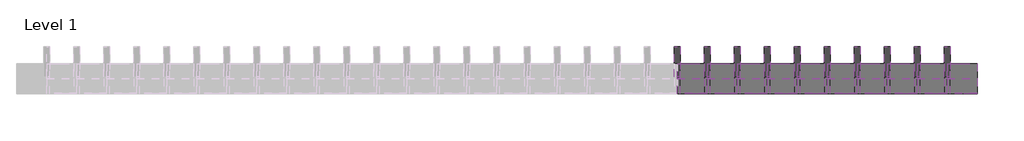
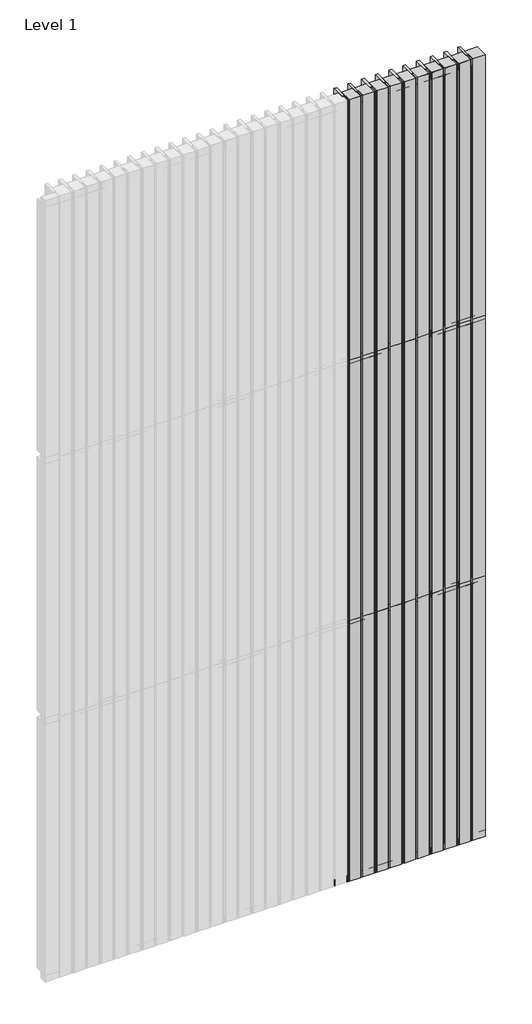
# One storey, part 6 of 6: 71 members, 60 plates.
"""IFC4 building model written with IfcOpenShell, lengths in millimetres."""

from ifc_helpers import new_model, si_unit, origin, place, context, project, spatial, transform, mapped, element, save
from components import rectangular_mullion_a3e25429, rectangular_mullion_cddbc660, rectangular_mullion_ae434dd9, rectangular_mullion_30cdfca6, empty_system_panel_empty_5411477d, empty_system_panel_empty_c50988b4, empty_system_panel_empty_7f011ee1, empty_system_panel_empty_3767e820

model = new_model("IFC4")

# Units and contexts
model_context = context("Model", 3, world=origin())
ifc_project = project(units=[si_unit("LENGTHUNIT", "METRE", prefix="MILLI")], contexts=[model_context])

# Site, building, storey
site = spatial("IfcSite", under=ifc_project)
building = spatial("IfcBuilding", under=site)
storey = spatial("IfcBuildingStorey", under=building, Name="Level 1", Elevation=0.0)

# Members
placement = place(None, origin())
rectangular_mullion_shape = rectangular_mullion_a3e25429(model_context)
element("IfcMember", 1, ObjectType="Rectangular Mullion : RSen_21_CWM_support profile 50x50 - right_gen_duco projects", at=placement, inside=storey, context=model_context, shape_type="MappedRepresentation", body=[
    mapped(rectangular_mullion_shape, transform((6000.0, 3000.0, 0.0), x_axis=(0.0, 0.0, -1.0), y_axis=(0.0, 1.0, 0.0), z_axis=(1.0, 0.0, 0.0))),
])
rectangular_mullion_2_shape = rectangular_mullion_cddbc660(model_context)
element("IfcMember", 2, ObjectType="Rectangular Mullion : RSen_21_CWM_support profile 50x50 - left_gen_duco projects", at=placement, inside=storey, context=model_context, shape_type="MappedRepresentation", body=[
    mapped(rectangular_mullion_2_shape, transform((5900.0, 3000.0, 6000.0), x_axis=(0.0, 0.0, 1.0), y_axis=(0.0, 1.0, 0.0), z_axis=(-1.0, 0.0, 0.0))),
])
element("IfcMember", 3, ObjectType="Rectangular Mullion : RSen_21_CWM_support profile 50x50 - left_gen_duco projects", at=placement, inside=storey, context=model_context, shape_type="MappedRepresentation", body=[
    mapped(rectangular_mullion_2_shape, transform((5800.0, 3000.0, 6000.0), x_axis=(0.0, 0.0, 1.0), y_axis=(0.0, 1.0, 0.0), z_axis=(-1.0, 0.0, 0.0))),
])
element("IfcMember", 4, ObjectType="Rectangular Mullion : RSen_21_CWM_support profile 50x50 - left_gen_duco projects", at=placement, inside=storey, context=model_context, shape_type="MappedRepresentation", body=[
    mapped(rectangular_mullion_2_shape, transform((5700.0, 3000.0, 6000.0), x_axis=(0.0, 0.0, 1.0), y_axis=(0.0, 1.0, 0.0), z_axis=(-1.0, 0.0, 0.0))),
])
element("IfcMember", 5, ObjectType="Rectangular Mullion : RSen_21_CWM_support profile 50x50 - left_gen_duco projects", at=placement, inside=storey, context=model_context, shape_type="MappedRepresentation", body=[
    mapped(rectangular_mullion_2_shape, transform((5600.0, 3000.0, 6000.0), x_axis=(0.0, 0.0, 1.0), y_axis=(0.0, 1.0, 0.0), z_axis=(-1.0, 0.0, 0.0))),
])
element("IfcMember", 6, ObjectType="Rectangular Mullion : RSen_21_CWM_support profile 50x50 - left_gen_duco projects", at=placement, inside=storey, context=model_context, shape_type="MappedRepresentation", body=[
    mapped(rectangular_mullion_2_shape, transform((5500.0, 3000.0, 6000.0), x_axis=(0.0, 0.0, 1.0), y_axis=(0.0, 1.0, 0.0), z_axis=(-1.0, 0.0, 0.0))),
])
element("IfcMember", 7, ObjectType="Rectangular Mullion : RSen_21_CWM_support profile 50x50 - left_gen_duco projects", at=placement, inside=storey, context=model_context, shape_type="MappedRepresentation", body=[
    mapped(rectangular_mullion_2_shape, transform((5400.0, 3000.0, 6000.0), x_axis=(0.0, 0.0, 1.0), y_axis=(0.0, 1.0, 0.0), z_axis=(-1.0, 0.0, 0.0))),
])
element("IfcMember", 8, ObjectType="Rectangular Mullion : RSen_21_CWM_support profile 50x50 - left_gen_duco projects", at=placement, inside=storey, context=model_context, shape_type="MappedRepresentation", body=[
    mapped(rectangular_mullion_2_shape, transform((5300.0, 3000.0, 6000.0), x_axis=(0.0, 0.0, 1.0), y_axis=(0.0, 1.0, 0.0), z_axis=(-1.0, 0.0, 0.0))),
])
element("IfcMember", 9, ObjectType="Rectangular Mullion : RSen_21_CWM_support profile 50x50 - left_gen_duco projects", at=placement, inside=storey, context=model_context, shape_type="MappedRepresentation", body=[
    mapped(rectangular_mullion_2_shape, transform((5200.0, 3000.0, 6000.0), x_axis=(0.0, 0.0, 1.0), y_axis=(0.0, 1.0, 0.0), z_axis=(-1.0, 0.0, 0.0))),
])
element("IfcMember", 10, ObjectType="Rectangular Mullion : RSen_21_CWM_support profile 50x50 - left_gen_duco projects", at=placement, inside=storey, context=model_context, shape_type="MappedRepresentation", body=[
    mapped(rectangular_mullion_2_shape, transform((5100.0, 3000.0, 6000.0), x_axis=(0.0, 0.0, 1.0), y_axis=(0.0, 1.0, 0.0), z_axis=(-1.0, 0.0, 0.0))),
])
element("IfcMember", 11, ObjectType="Rectangular Mullion : RSen_21_CWM_support profile 50x50 - left_gen_duco projects", at=placement, inside=storey, context=model_context, shape_type="MappedRepresentation", body=[
    mapped(rectangular_mullion_2_shape, transform((5000.0, 3000.0, 6000.0), x_axis=(0.0, 0.0, 1.0), y_axis=(0.0, 1.0, 0.0), z_axis=(-1.0, 0.0, 0.0))),
])
element("IfcMember", 12, ObjectType="Rectangular Mullion : RSen_21_CWM_support profile 50x50 - right_gen_duco projects", at=placement, inside=storey, context=model_context, shape_type="MappedRepresentation", body=[
    mapped(rectangular_mullion_shape, transform((5900.0, 3000.0, 0.0), x_axis=(0.0, 0.0, -1.0), y_axis=(0.0, 1.0, 0.0), z_axis=(1.0, 0.0, 0.0))),
])
element("IfcMember", 13, ObjectType="Rectangular Mullion : RSen_21_CWM_support profile 50x50 - right_gen_duco projects", at=placement, inside=storey, context=model_context, shape_type="MappedRepresentation", body=[
    mapped(rectangular_mullion_shape, transform((5800.0, 3000.0, 0.0), x_axis=(0.0, 0.0, -1.0), y_axis=(0.0, 1.0, 0.0), z_axis=(1.0, 0.0, 0.0))),
])
element("IfcMember", 14, ObjectType="Rectangular Mullion : RSen_21_CWM_support profile 50x50 - right_gen_duco projects", at=placement, inside=storey, context=model_context, shape_type="MappedRepresentation", body=[
    mapped(rectangular_mullion_shape, transform((5700.0, 3000.0, 0.0), x_axis=(0.0, 0.0, -1.0), y_axis=(0.0, 1.0, 0.0), z_axis=(1.0, 0.0, 0.0))),
])
element("IfcMember", 15, ObjectType="Rectangular Mullion : RSen_21_CWM_support profile 50x50 - right_gen_duco projects", at=placement, inside=storey, context=model_context, shape_type="MappedRepresentation", body=[
    mapped(rectangular_mullion_shape, transform((5600.0, 3000.0, 0.0), x_axis=(0.0, 0.0, -1.0), y_axis=(0.0, 1.0, 0.0), z_axis=(1.0, 0.0, 0.0))),
])
element("IfcMember", 16, ObjectType="Rectangular Mullion : RSen_21_CWM_support profile 50x50 - right_gen_duco projects", at=placement, inside=storey, context=model_context, shape_type="MappedRepresentation", body=[
    mapped(rectangular_mullion_shape, transform((5500.0, 3000.0, 0.0), x_axis=(0.0, 0.0, -1.0), y_axis=(0.0, 1.0, 0.0), z_axis=(1.0, 0.0, 0.0))),
])
element("IfcMember", 17, ObjectType="Rectangular Mullion : RSen_21_CWM_support profile 50x50 - right_gen_duco projects", at=placement, inside=storey, context=model_context, shape_type="MappedRepresentation", body=[
    mapped(rectangular_mullion_shape, transform((5400.0, 3000.0, 0.0), x_axis=(0.0, 0.0, -1.0), y_axis=(0.0, 1.0, 0.0), z_axis=(1.0, 0.0, 0.0))),
])
element("IfcMember", 18, ObjectType="Rectangular Mullion : RSen_21_CWM_support profile 50x50 - right_gen_duco projects", at=placement, inside=storey, context=model_context, shape_type="MappedRepresentation", body=[
    mapped(rectangular_mullion_shape, transform((5300.0, 3000.0, 0.0), x_axis=(0.0, 0.0, -1.0), y_axis=(0.0, 1.0, 0.0), z_axis=(1.0, 0.0, 0.0))),
])
element("IfcMember", 19, ObjectType="Rectangular Mullion : RSen_21_CWM_support profile 50x50 - right_gen_duco projects", at=placement, inside=storey, context=model_context, shape_type="MappedRepresentation", body=[
    mapped(rectangular_mullion_shape, transform((5200.0, 3000.0, 0.0), x_axis=(0.0, 0.0, -1.0), y_axis=(0.0, 1.0, 0.0), z_axis=(1.0, 0.0, 0.0))),
])
element("IfcMember", 20, ObjectType="Rectangular Mullion : RSen_21_CWM_support profile 50x50 - right_gen_duco projects", at=placement, inside=storey, context=model_context, shape_type="MappedRepresentation", body=[
    mapped(rectangular_mullion_shape, transform((5100.0, 3000.0, 0.0), x_axis=(0.0, 0.0, -1.0), y_axis=(0.0, 1.0, 0.0), z_axis=(1.0, 0.0, 0.0))),
])
element("IfcMember", 21, ObjectType="Rectangular Mullion : RSen_21_CWM_support profile 50x50 - right_gen_duco projects", at=placement, inside=storey, context=model_context, shape_type="MappedRepresentation", body=[
    mapped(rectangular_mullion_shape, transform((5000.0, 3000.0, 0.0), x_axis=(0.0, 0.0, -1.0), y_axis=(0.0, 1.0, 0.0), z_axis=(1.0, 0.0, 0.0))),
])
rectangular_mullion_3_shape = rectangular_mullion_ae434dd9(model_context)
element("IfcMember", 22, ObjectType="Rectangular Mullion : RSen_21_CWM_support profile 50x50_gen_duco projects", at=placement, inside=storey, context=model_context, shape_type="MappedRepresentation", body=[
    mapped(rectangular_mullion_3_shape, transform((5900.0, 3000.0, 2000.0), x_axis=(0.0, 0.0, 1.0), y_axis=(0.0, 1.0, 0.0), z_axis=(-1.0, 0.0, 0.0))),
])
element("IfcMember", 23, ObjectType="Rectangular Mullion : RSen_21_CWM_support profile 50x50_gen_duco projects", at=placement, inside=storey, context=model_context, shape_type="MappedRepresentation", body=[
    mapped(rectangular_mullion_3_shape, transform((5900.0, 3000.0, 4000.0), x_axis=(0.0, 0.0, 1.0), y_axis=(0.0, 1.0, 0.0), z_axis=(-1.0, 0.0, 0.0))),
])
element("IfcMember", 24, ObjectType="Rectangular Mullion : RSen_21_CWM_support profile 50x50_gen_duco projects", at=placement, inside=storey, context=model_context, shape_type="MappedRepresentation", body=[
    mapped(rectangular_mullion_3_shape, transform((5800.0, 3000.0, 2000.0), x_axis=(0.0, 0.0, 1.0), y_axis=(0.0, 1.0, 0.0), z_axis=(-1.0, 0.0, 0.0))),
])
element("IfcMember", 25, ObjectType="Rectangular Mullion : RSen_21_CWM_support profile 50x50_gen_duco projects", at=placement, inside=storey, context=model_context, shape_type="MappedRepresentation", body=[
    mapped(rectangular_mullion_3_shape, transform((5700.0, 3000.0, 2000.0), x_axis=(0.0, 0.0, 1.0), y_axis=(0.0, 1.0, 0.0), z_axis=(-1.0, 0.0, 0.0))),
])
element("IfcMember", 26, ObjectType="Rectangular Mullion : RSen_21_CWM_support profile 50x50_gen_duco projects", at=placement, inside=storey, context=model_context, shape_type="MappedRepresentation", body=[
    mapped(rectangular_mullion_3_shape, transform((5600.0, 3000.0, 2000.0), x_axis=(0.0, 0.0, 1.0), y_axis=(0.0, 1.0, 0.0), z_axis=(-1.0, 0.0, 0.0))),
])
element("IfcMember", 27, ObjectType="Rectangular Mullion : RSen_21_CWM_support profile 50x50_gen_duco projects", at=placement, inside=storey, context=model_context, shape_type="MappedRepresentation", body=[
    mapped(rectangular_mullion_3_shape, transform((5500.0, 3000.0, 2000.0), x_axis=(0.0, 0.0, 1.0), y_axis=(0.0, 1.0, 0.0), z_axis=(-1.0, 0.0, 0.0))),
])
element("IfcMember", 28, ObjectType="Rectangular Mullion : RSen_21_CWM_support profile 50x50_gen_duco projects", at=placement, inside=storey, context=model_context, shape_type="MappedRepresentation", body=[
    mapped(rectangular_mullion_3_shape, transform((5400.0, 3000.0, 2000.0), x_axis=(0.0, 0.0, 1.0), y_axis=(0.0, 1.0, 0.0), z_axis=(-1.0, 0.0, 0.0))),
])
element("IfcMember", 29, ObjectType="Rectangular Mullion : RSen_21_CWM_support profile 50x50_gen_duco projects", at=placement, inside=storey, context=model_context, shape_type="MappedRepresentation", body=[
    mapped(rectangular_mullion_3_shape, transform((5300.0, 3000.0, 2000.0), x_axis=(0.0, 0.0, 1.0), y_axis=(0.0, 1.0, 0.0), z_axis=(-1.0, 0.0, 0.0))),
])
element("IfcMember", 30, ObjectType="Rectangular Mullion : RSen_21_CWM_support profile 50x50_gen_duco projects", at=placement, inside=storey, context=model_context, shape_type="MappedRepresentation", body=[
    mapped(rectangular_mullion_3_shape, transform((5200.0, 3000.0, 2000.0), x_axis=(0.0, 0.0, 1.0), y_axis=(0.0, 1.0, 0.0), z_axis=(-1.0, 0.0, 0.0))),
])
element("IfcMember", 31, ObjectType="Rectangular Mullion : RSen_21_CWM_support profile 50x50_gen_duco projects", at=placement, inside=storey, context=model_context, shape_type="MappedRepresentation", body=[
    mapped(rectangular_mullion_3_shape, transform((5100.0, 3000.0, 2000.0), x_axis=(0.0, 0.0, 1.0), y_axis=(0.0, 1.0, 0.0), z_axis=(-1.0, 0.0, 0.0))),
])
element("IfcMember", 32, ObjectType="Rectangular Mullion : RSen_21_CWM_support profile 50x50_gen_duco projects", at=placement, inside=storey, context=model_context, shape_type="MappedRepresentation", body=[
    mapped(rectangular_mullion_3_shape, transform((5000.0, 3000.0, 2000.0), x_axis=(0.0, 0.0, 1.0), y_axis=(0.0, 1.0, 0.0), z_axis=(-1.0, 0.0, 0.0))),
])
element("IfcMember", 33, ObjectType="Rectangular Mullion : RSen_21_CWM_support profile 50x50_gen_duco projects", at=placement, inside=storey, context=model_context, shape_type="MappedRepresentation", body=[
    mapped(rectangular_mullion_3_shape, transform((5800.0, 3000.0, 4000.0), x_axis=(0.0, 0.0, 1.0), y_axis=(0.0, 1.0, 0.0), z_axis=(-1.0, 0.0, 0.0))),
])
element("IfcMember", 34, ObjectType="Rectangular Mullion : RSen_21_CWM_support profile 50x50_gen_duco projects", at=placement, inside=storey, context=model_context, shape_type="MappedRepresentation", body=[
    mapped(rectangular_mullion_3_shape, transform((5700.0, 3000.0, 4000.0), x_axis=(0.0, 0.0, 1.0), y_axis=(0.0, 1.0, 0.0), z_axis=(-1.0, 0.0, 0.0))),
])
element("IfcMember", 35, ObjectType="Rectangular Mullion : RSen_21_CWM_support profile 50x50_gen_duco projects", at=placement, inside=storey, context=model_context, shape_type="MappedRepresentation", body=[
    mapped(rectangular_mullion_3_shape, transform((5600.0, 3000.0, 4000.0), x_axis=(0.0, 0.0, 1.0), y_axis=(0.0, 1.0, 0.0), z_axis=(-1.0, 0.0, 0.0))),
])
element("IfcMember", 36, ObjectType="Rectangular Mullion : RSen_21_CWM_support profile 50x50_gen_duco projects", at=placement, inside=storey, context=model_context, shape_type="MappedRepresentation", body=[
    mapped(rectangular_mullion_3_shape, transform((5500.0, 3000.0, 4000.0), x_axis=(0.0, 0.0, 1.0), y_axis=(0.0, 1.0, 0.0), z_axis=(-1.0, 0.0, 0.0))),
])
element("IfcMember", 37, ObjectType="Rectangular Mullion : RSen_21_CWM_support profile 50x50_gen_duco projects", at=placement, inside=storey, context=model_context, shape_type="MappedRepresentation", body=[
    mapped(rectangular_mullion_3_shape, transform((5400.0, 3000.0, 4000.0), x_axis=(0.0, 0.0, 1.0), y_axis=(0.0, 1.0, 0.0), z_axis=(-1.0, 0.0, 0.0))),
])
element("IfcMember", 38, ObjectType="Rectangular Mullion : RSen_21_CWM_support profile 50x50_gen_duco projects", at=placement, inside=storey, context=model_context, shape_type="MappedRepresentation", body=[
    mapped(rectangular_mullion_3_shape, transform((5300.0, 3000.0, 4000.0), x_axis=(0.0, 0.0, 1.0), y_axis=(0.0, 1.0, 0.0), z_axis=(-1.0, 0.0, 0.0))),
])
element("IfcMember", 39, ObjectType="Rectangular Mullion : RSen_21_CWM_support profile 50x50_gen_duco projects", at=placement, inside=storey, context=model_context, shape_type="MappedRepresentation", body=[
    mapped(rectangular_mullion_3_shape, transform((5200.0, 3000.0, 4000.0), x_axis=(0.0, 0.0, 1.0), y_axis=(0.0, 1.0, 0.0), z_axis=(-1.0, 0.0, 0.0))),
])
element("IfcMember", 40, ObjectType="Rectangular Mullion : RSen_21_CWM_support profile 50x50_gen_duco projects", at=placement, inside=storey, context=model_context, shape_type="MappedRepresentation", body=[
    mapped(rectangular_mullion_3_shape, transform((5100.0, 3000.0, 4000.0), x_axis=(0.0, 0.0, 1.0), y_axis=(0.0, 1.0, 0.0), z_axis=(-1.0, 0.0, 0.0))),
])
element("IfcMember", 41, ObjectType="Rectangular Mullion : RSen_21_CWM_support profile 50x50_gen_duco projects", at=placement, inside=storey, context=model_context, shape_type="MappedRepresentation", body=[
    mapped(rectangular_mullion_3_shape, transform((5000.0, 3000.0, 4000.0), x_axis=(0.0, 0.0, 1.0), y_axis=(0.0, 1.0, 0.0), z_axis=(-1.0, 0.0, 0.0))),
])
rectangular_mullion_4_shape = rectangular_mullion_30cdfca6(model_context)
element("IfcMember", 42, ObjectType="Rectangular Mullion : RSen_21_CWM_blade - cubic 100 - 0°_gen_duco projects", at=placement, inside=storey, context=model_context, shape_type="MappedRepresentation", body=[
    mapped(rectangular_mullion_4_shape, transform((5900.0, 3000.0, 0.0), x_axis=(-1.0, 0.0, 0.0), y_axis=(0.0, 1.0, 0.0), z_axis=(0.0, 0.0, -1.0))),
])
element("IfcMember", 43, ObjectType="Rectangular Mullion : RSen_21_CWM_blade - cubic 100 - 0°_gen_duco projects", at=placement, inside=storey, context=model_context, shape_type="MappedRepresentation", body=[
    mapped(rectangular_mullion_4_shape, transform((5800.0, 3000.0, 0.0), x_axis=(-1.0, 0.0, 0.0), y_axis=(0.0, 1.0, 0.0), z_axis=(0.0, 0.0, -1.0))),
])
element("IfcMember", 44, ObjectType="Rectangular Mullion : RSen_21_CWM_blade - cubic 100 - 0°_gen_duco projects", at=placement, inside=storey, context=model_context, shape_type="MappedRepresentation", body=[
    mapped(rectangular_mullion_4_shape, transform((5700.0, 3000.0, 0.0), x_axis=(-1.0, 0.0, 0.0), y_axis=(0.0, 1.0, 0.0), z_axis=(0.0, 0.0, -1.0))),
])
element("IfcMember", 45, ObjectType="Rectangular Mullion : RSen_21_CWM_blade - cubic 100 - 0°_gen_duco projects", at=placement, inside=storey, context=model_context, shape_type="MappedRepresentation", body=[
    mapped(rectangular_mullion_4_shape, transform((5600.0, 3000.0, 0.0), x_axis=(-1.0, 0.0, 0.0), y_axis=(0.0, 1.0, 0.0), z_axis=(0.0, 0.0, -1.0))),
])
element("IfcMember", 46, ObjectType="Rectangular Mullion : RSen_21_CWM_blade - cubic 100 - 0°_gen_duco projects", at=placement, inside=storey, context=model_context, shape_type="MappedRepresentation", body=[
    mapped(rectangular_mullion_4_shape, transform((5500.0, 3000.0, 0.0), x_axis=(-1.0, 0.0, 0.0), y_axis=(0.0, 1.0, 0.0), z_axis=(0.0, 0.0, -1.0))),
])
element("IfcMember", 47, ObjectType="Rectangular Mullion : RSen_21_CWM_blade - cubic 100 - 0°_gen_duco projects", at=placement, inside=storey, context=model_context, shape_type="MappedRepresentation", body=[
    mapped(rectangular_mullion_4_shape, transform((5400.0, 3000.0, 0.0), x_axis=(-1.0, 0.0, 0.0), y_axis=(0.0, 1.0, 0.0), z_axis=(0.0, 0.0, -1.0))),
])
element("IfcMember", 48, ObjectType="Rectangular Mullion : RSen_21_CWM_blade - cubic 100 - 0°_gen_duco projects", at=placement, inside=storey, context=model_context, shape_type="MappedRepresentation", body=[
    mapped(rectangular_mullion_4_shape, transform((5300.0, 3000.0, 0.0), x_axis=(-1.0, 0.0, 0.0), y_axis=(0.0, 1.0, 0.0), z_axis=(0.0, 0.0, -1.0))),
])
element("IfcMember", 49, ObjectType="Rectangular Mullion : RSen_21_CWM_blade - cubic 100 - 0°_gen_duco projects", at=placement, inside=storey, context=model_context, shape_type="MappedRepresentation", body=[
    mapped(rectangular_mullion_4_shape, transform((5200.0, 3000.0, 0.0), x_axis=(-1.0, 0.0, 0.0), y_axis=(0.0, 1.0, 0.0), z_axis=(0.0, 0.0, -1.0))),
])
element("IfcMember", 50, ObjectType="Rectangular Mullion : RSen_21_CWM_blade - cubic 100 - 0°_gen_duco projects", at=placement, inside=storey, context=model_context, shape_type="MappedRepresentation", body=[
    mapped(rectangular_mullion_4_shape, transform((5100.0, 3000.0, 0.0), x_axis=(-1.0, 0.0, 0.0), y_axis=(0.0, 1.0, 0.0), z_axis=(0.0, 0.0, -1.0))),
])
element("IfcMember", 51, ObjectType="Rectangular Mullion : RSen_21_CWM_blade - cubic 100 - 0°_gen_duco projects", at=placement, inside=storey, context=model_context, shape_type="MappedRepresentation", body=[
    mapped(rectangular_mullion_4_shape, transform((5000.0, 3000.0, 0.0), x_axis=(-1.0, 0.0, 0.0), y_axis=(0.0, 1.0, 0.0), z_axis=(0.0, 0.0, -1.0))),
])
element("IfcMember", 52, ObjectType="Rectangular Mullion : RSen_21_CWM_blade - cubic 100 - 0°_gen_duco projects", at=placement, inside=storey, context=model_context, shape_type="MappedRepresentation", body=[
    mapped(rectangular_mullion_4_shape, transform((5900.0, 3000.0, 2000.0), x_axis=(-1.0, 0.0, 0.0), y_axis=(0.0, 1.0, 0.0), z_axis=(0.0, 0.0, -1.0))),
])
element("IfcMember", 53, ObjectType="Rectangular Mullion : RSen_21_CWM_blade - cubic 100 - 0°_gen_duco projects", at=placement, inside=storey, context=model_context, shape_type="MappedRepresentation", body=[
    mapped(rectangular_mullion_4_shape, transform((5800.0, 3000.0, 2000.0), x_axis=(-1.0, 0.0, 0.0), y_axis=(0.0, 1.0, 0.0), z_axis=(0.0, 0.0, -1.0))),
])
element("IfcMember", 54, ObjectType="Rectangular Mullion : RSen_21_CWM_blade - cubic 100 - 0°_gen_duco projects", at=placement, inside=storey, context=model_context, shape_type="MappedRepresentation", body=[
    mapped(rectangular_mullion_4_shape, transform((5700.0, 3000.0, 2000.0), x_axis=(-1.0, 0.0, 0.0), y_axis=(0.0, 1.0, 0.0), z_axis=(0.0, 0.0, -1.0))),
])
element("IfcMember", 55, ObjectType="Rectangular Mullion : RSen_21_CWM_blade - cubic 100 - 0°_gen_duco projects", at=placement, inside=storey, context=model_context, shape_type="MappedRepresentation", body=[
    mapped(rectangular_mullion_4_shape, transform((5600.0, 3000.0, 2000.0), x_axis=(-1.0, 0.0, 0.0), y_axis=(0.0, 1.0, 0.0), z_axis=(0.0, 0.0, -1.0))),
])
element("IfcMember", 56, ObjectType="Rectangular Mullion : RSen_21_CWM_blade - cubic 100 - 0°_gen_duco projects", at=placement, inside=storey, context=model_context, shape_type="MappedRepresentation", body=[
    mapped(rectangular_mullion_4_shape, transform((5500.0, 3000.0, 2000.0), x_axis=(-1.0, 0.0, 0.0), y_axis=(0.0, 1.0, 0.0), z_axis=(0.0, 0.0, -1.0))),
])
element("IfcMember", 57, ObjectType="Rectangular Mullion : RSen_21_CWM_blade - cubic 100 - 0°_gen_duco projects", at=placement, inside=storey, context=model_context, shape_type="MappedRepresentation", body=[
    mapped(rectangular_mullion_4_shape, transform((5400.0, 3000.0, 2000.0), x_axis=(-1.0, 0.0, 0.0), y_axis=(0.0, 1.0, 0.0), z_axis=(0.0, 0.0, -1.0))),
])
element("IfcMember", 58, ObjectType="Rectangular Mullion : RSen_21_CWM_blade - cubic 100 - 0°_gen_duco projects", at=placement, inside=storey, context=model_context, shape_type="MappedRepresentation", body=[
    mapped(rectangular_mullion_4_shape, transform((5300.0, 3000.0, 2000.0), x_axis=(-1.0, 0.0, 0.0), y_axis=(0.0, 1.0, 0.0), z_axis=(0.0, 0.0, -1.0))),
])
element("IfcMember", 59, ObjectType="Rectangular Mullion : RSen_21_CWM_blade - cubic 100 - 0°_gen_duco projects", at=placement, inside=storey, context=model_context, shape_type="MappedRepresentation", body=[
    mapped(rectangular_mullion_4_shape, transform((5200.0, 3000.0, 2000.0), x_axis=(-1.0, 0.0, 0.0), y_axis=(0.0, 1.0, 0.0), z_axis=(0.0, 0.0, -1.0))),
])
element("IfcMember", 60, ObjectType="Rectangular Mullion : RSen_21_CWM_blade - cubic 100 - 0°_gen_duco projects", at=placement, inside=storey, context=model_context, shape_type="MappedRepresentation", body=[
    mapped(rectangular_mullion_4_shape, transform((5100.0, 3000.0, 2000.0), x_axis=(-1.0, 0.0, 0.0), y_axis=(0.0, 1.0, 0.0), z_axis=(0.0, 0.0, -1.0))),
])
element("IfcMember", 61, ObjectType="Rectangular Mullion : RSen_21_CWM_blade - cubic 100 - 0°_gen_duco projects", at=placement, inside=storey, context=model_context, shape_type="MappedRepresentation", body=[
    mapped(rectangular_mullion_4_shape, transform((5000.0, 3000.0, 2000.0), x_axis=(-1.0, 0.0, 0.0), y_axis=(0.0, 1.0, 0.0), z_axis=(0.0, 0.0, -1.0))),
])
element("IfcMember", 62, ObjectType="Rectangular Mullion : RSen_21_CWM_blade - cubic 100 - 0°_gen_duco projects", at=placement, inside=storey, context=model_context, shape_type="MappedRepresentation", body=[
    mapped(rectangular_mullion_4_shape, transform((5900.0, 3000.0, 4000.0), x_axis=(-1.0, 0.0, 0.0), y_axis=(0.0, 1.0, 0.0), z_axis=(0.0, 0.0, -1.0))),
])
element("IfcMember", 63, ObjectType="Rectangular Mullion : RSen_21_CWM_blade - cubic 100 - 0°_gen_duco projects", at=placement, inside=storey, context=model_context, shape_type="MappedRepresentation", body=[
    mapped(rectangular_mullion_4_shape, transform((5800.0, 3000.0, 4000.0), x_axis=(-1.0, 0.0, 0.0), y_axis=(0.0, 1.0, 0.0), z_axis=(0.0, 0.0, -1.0))),
])
element("IfcMember", 64, ObjectType="Rectangular Mullion : RSen_21_CWM_blade - cubic 100 - 0°_gen_duco projects", at=placement, inside=storey, context=model_context, shape_type="MappedRepresentation", body=[
    mapped(rectangular_mullion_4_shape, transform((5700.0, 3000.0, 4000.0), x_axis=(-1.0, 0.0, 0.0), y_axis=(0.0, 1.0, 0.0), z_axis=(0.0, 0.0, -1.0))),
])
element("IfcMember", 65, ObjectType="Rectangular Mullion : RSen_21_CWM_blade - cubic 100 - 0°_gen_duco projects", at=placement, inside=storey, context=model_context, shape_type="MappedRepresentation", body=[
    mapped(rectangular_mullion_4_shape, transform((5600.0, 3000.0, 4000.0), x_axis=(-1.0, 0.0, 0.0), y_axis=(0.0, 1.0, 0.0), z_axis=(0.0, 0.0, -1.0))),
])
element("IfcMember", 66, ObjectType="Rectangular Mullion : RSen_21_CWM_blade - cubic 100 - 0°_gen_duco projects", at=placement, inside=storey, context=model_context, shape_type="MappedRepresentation", body=[
    mapped(rectangular_mullion_4_shape, transform((5500.0, 3000.0, 4000.0), x_axis=(-1.0, 0.0, 0.0), y_axis=(0.0, 1.0, 0.0), z_axis=(0.0, 0.0, -1.0))),
])
element("IfcMember", 67, ObjectType="Rectangular Mullion : RSen_21_CWM_blade - cubic 100 - 0°_gen_duco projects", at=placement, inside=storey, context=model_context, shape_type="MappedRepresentation", body=[
    mapped(rectangular_mullion_4_shape, transform((5400.0, 3000.0, 4000.0), x_axis=(-1.0, 0.0, 0.0), y_axis=(0.0, 1.0, 0.0), z_axis=(0.0, 0.0, -1.0))),
])
element("IfcMember", 68, ObjectType="Rectangular Mullion : RSen_21_CWM_blade - cubic 100 - 0°_gen_duco projects", at=placement, inside=storey, context=model_context, shape_type="MappedRepresentation", body=[
    mapped(rectangular_mullion_4_shape, transform((5300.0, 3000.0, 4000.0), x_axis=(-1.0, 0.0, 0.0), y_axis=(0.0, 1.0, 0.0), z_axis=(0.0, 0.0, -1.0))),
])
element("IfcMember", 69, ObjectType="Rectangular Mullion : RSen_21_CWM_blade - cubic 100 - 0°_gen_duco projects", at=placement, inside=storey, context=model_context, shape_type="MappedRepresentation", body=[
    mapped(rectangular_mullion_4_shape, transform((5200.0, 3000.0, 4000.0), x_axis=(-1.0, 0.0, 0.0), y_axis=(0.0, 1.0, 0.0), z_axis=(0.0, 0.0, -1.0))),
])
element("IfcMember", 70, ObjectType="Rectangular Mullion : RSen_21_CWM_blade - cubic 100 - 0°_gen_duco projects", at=placement, inside=storey, context=model_context, shape_type="MappedRepresentation", body=[
    mapped(rectangular_mullion_4_shape, transform((5100.0, 3000.0, 4000.0), x_axis=(-1.0, 0.0, 0.0), y_axis=(0.0, 1.0, 0.0), z_axis=(0.0, 0.0, -1.0))),
])
element("IfcMember", 71, ObjectType="Rectangular Mullion : RSen_21_CWM_blade - cubic 100 - 0°_gen_duco projects", at=placement, inside=storey, context=model_context, shape_type="MappedRepresentation", body=[
    mapped(rectangular_mullion_4_shape, transform((5000.0, 3000.0, 4000.0), x_axis=(-1.0, 0.0, 0.0), y_axis=(0.0, 1.0, 0.0), z_axis=(0.0, 0.0, -1.0))),
])

# Plates
empty_system_panel_empty_shape = empty_system_panel_empty_5411477d(model_context)
element("IfcPlate", 72, ObjectType="Empty System Panel : Empty", at=placement, inside=storey, context=model_context, shape_type="MappedRepresentation", body=[
    mapped(empty_system_panel_empty_shape, transform((5950.0, 3000.0, 50.0), x_axis=(-1.0, 0.0, 0.0), y_axis=(0.0, -1.0, 0.0), z_axis=(0.0, 0.0, 1.0))),
])
element("IfcPlate", 73, ObjectType="Empty System Panel : Empty", at=placement, inside=storey, context=model_context, shape_type="MappedRepresentation", body=[
    mapped(empty_system_panel_empty_shape, transform((5850.0, 3000.0, 50.0), x_axis=(-1.0, 0.0, 0.0), y_axis=(0.0, -1.0, 0.0), z_axis=(0.0, 0.0, 1.0))),
])
element("IfcPlate", 74, ObjectType="Empty System Panel : Empty", at=placement, inside=storey, context=model_context, shape_type="MappedRepresentation", body=[
    mapped(empty_system_panel_empty_shape, transform((5750.0, 3000.0, 50.0), x_axis=(-1.0, 0.0, 0.0), y_axis=(0.0, -1.0, 0.0), z_axis=(0.0, 0.0, 1.0))),
])
element("IfcPlate", 75, ObjectType="Empty System Panel : Empty", at=placement, inside=storey, context=model_context, shape_type="MappedRepresentation", body=[
    mapped(empty_system_panel_empty_shape, transform((5650.0, 3000.0, 50.0), x_axis=(-1.0, 0.0, 0.0), y_axis=(0.0, -1.0, 0.0), z_axis=(0.0, 0.0, 1.0))),
])
element("IfcPlate", 76, ObjectType="Empty System Panel : Empty", at=placement, inside=storey, context=model_context, shape_type="MappedRepresentation", body=[
    mapped(empty_system_panel_empty_shape, transform((5550.0, 3000.0, 50.0), x_axis=(-1.0, 0.0, 0.0), y_axis=(0.0, -1.0, 0.0), z_axis=(0.0, 0.0, 1.0))),
])
element("IfcPlate", 77, ObjectType="Empty System Panel : Empty", at=placement, inside=storey, context=model_context, shape_type="MappedRepresentation", body=[
    mapped(empty_system_panel_empty_shape, transform((5450.0, 3000.0, 50.0), x_axis=(-1.0, 0.0, 0.0), y_axis=(0.0, -1.0, 0.0), z_axis=(0.0, 0.0, 1.0))),
])
element("IfcPlate", 78, ObjectType="Empty System Panel : Empty", at=placement, inside=storey, context=model_context, shape_type="MappedRepresentation", body=[
    mapped(empty_system_panel_empty_shape, transform((5350.0, 3000.0, 50.0), x_axis=(-1.0, 0.0, 0.0), y_axis=(0.0, -1.0, 0.0), z_axis=(0.0, 0.0, 1.0))),
])
element("IfcPlate", 79, ObjectType="Empty System Panel : Empty", at=placement, inside=storey, context=model_context, shape_type="MappedRepresentation", body=[
    mapped(empty_system_panel_empty_shape, transform((5250.0, 3000.0, 50.0), x_axis=(-1.0, 0.0, 0.0), y_axis=(0.0, -1.0, 0.0), z_axis=(0.0, 0.0, 1.0))),
])
element("IfcPlate", 80, ObjectType="Empty System Panel : Empty", at=placement, inside=storey, context=model_context, shape_type="MappedRepresentation", body=[
    mapped(empty_system_panel_empty_shape, transform((5150.0, 3000.0, 50.0), x_axis=(-1.0, 0.0, 0.0), y_axis=(0.0, -1.0, 0.0), z_axis=(0.0, 0.0, 1.0))),
])
element("IfcPlate", 81, ObjectType="Empty System Panel : Empty", at=placement, inside=storey, context=model_context, shape_type="MappedRepresentation", body=[
    mapped(empty_system_panel_empty_shape, transform((5050.0, 3000.0, 50.0), x_axis=(-1.0, 0.0, 0.0), y_axis=(0.0, -1.0, 0.0), z_axis=(0.0, 0.0, 1.0))),
])
element("IfcPlate", 82, ObjectType="Empty System Panel : Empty", at=placement, inside=storey, context=model_context, shape_type="MappedRepresentation", body=[
    mapped(empty_system_panel_empty_shape, transform((5950.0, 3000.0, 4025.0), x_axis=(-1.0, 0.0, 0.0), y_axis=(0.0, -1.0, 0.0), z_axis=(0.0, 0.0, 1.0))),
])
element("IfcPlate", 83, ObjectType="Empty System Panel : Empty", at=placement, inside=storey, context=model_context, shape_type="MappedRepresentation", body=[
    mapped(empty_system_panel_empty_shape, transform((5850.0, 3000.0, 4025.0), x_axis=(-1.0, 0.0, 0.0), y_axis=(0.0, -1.0, 0.0), z_axis=(0.0, 0.0, 1.0))),
])
element("IfcPlate", 84, ObjectType="Empty System Panel : Empty", at=placement, inside=storey, context=model_context, shape_type="MappedRepresentation", body=[
    mapped(empty_system_panel_empty_shape, transform((5750.0, 3000.0, 4025.0), x_axis=(-1.0, 0.0, 0.0), y_axis=(0.0, -1.0, 0.0), z_axis=(0.0, 0.0, 1.0))),
])
element("IfcPlate", 85, ObjectType="Empty System Panel : Empty", at=placement, inside=storey, context=model_context, shape_type="MappedRepresentation", body=[
    mapped(empty_system_panel_empty_shape, transform((5650.0, 3000.0, 4025.0), x_axis=(-1.0, 0.0, 0.0), y_axis=(0.0, -1.0, 0.0), z_axis=(0.0, 0.0, 1.0))),
])
element("IfcPlate", 86, ObjectType="Empty System Panel : Empty", at=placement, inside=storey, context=model_context, shape_type="MappedRepresentation", body=[
    mapped(empty_system_panel_empty_shape, transform((5550.0, 3000.0, 4025.0), x_axis=(-1.0, 0.0, 0.0), y_axis=(0.0, -1.0, 0.0), z_axis=(0.0, 0.0, 1.0))),
])
element("IfcPlate", 87, ObjectType="Empty System Panel : Empty", at=placement, inside=storey, context=model_context, shape_type="MappedRepresentation", body=[
    mapped(empty_system_panel_empty_shape, transform((5450.0, 3000.0, 4025.0), x_axis=(-1.0, 0.0, 0.0), y_axis=(0.0, -1.0, 0.0), z_axis=(0.0, 0.0, 1.0))),
])
element("IfcPlate", 88, ObjectType="Empty System Panel : Empty", at=placement, inside=storey, context=model_context, shape_type="MappedRepresentation", body=[
    mapped(empty_system_panel_empty_shape, transform((5350.0, 3000.0, 4025.0), x_axis=(-1.0, 0.0, 0.0), y_axis=(0.0, -1.0, 0.0), z_axis=(0.0, 0.0, 1.0))),
])
element("IfcPlate", 89, ObjectType="Empty System Panel : Empty", at=placement, inside=storey, context=model_context, shape_type="MappedRepresentation", body=[
    mapped(empty_system_panel_empty_shape, transform((5250.0, 3000.0, 4025.0), x_axis=(-1.0, 0.0, 0.0), y_axis=(0.0, -1.0, 0.0), z_axis=(0.0, 0.0, 1.0))),
])
element("IfcPlate", 90, ObjectType="Empty System Panel : Empty", at=placement, inside=storey, context=model_context, shape_type="MappedRepresentation", body=[
    mapped(empty_system_panel_empty_shape, transform((5150.0, 3000.0, 4025.0), x_axis=(-1.0, 0.0, 0.0), y_axis=(0.0, -1.0, 0.0), z_axis=(0.0, 0.0, 1.0))),
])
element("IfcPlate", 91, ObjectType="Empty System Panel : Empty", at=placement, inside=storey, context=model_context, shape_type="MappedRepresentation", body=[
    mapped(empty_system_panel_empty_shape, transform((5050.0, 3000.0, 4025.0), x_axis=(-1.0, 0.0, 0.0), y_axis=(0.0, -1.0, 0.0), z_axis=(0.0, 0.0, 1.0))),
])
empty_system_panel_empty_2_shape = empty_system_panel_empty_c50988b4(model_context)
element("IfcPlate", 92, ObjectType="Empty System Panel : Empty", at=placement, inside=storey, context=model_context, shape_type="MappedRepresentation", body=[
    mapped(empty_system_panel_empty_2_shape, transform((5950.0, 3000.0, 2025.0), x_axis=(-1.0, 0.0, 0.0), y_axis=(0.0, -1.0, 0.0), z_axis=(0.0, 0.0, 1.0))),
])
element("IfcPlate", 93, ObjectType="Empty System Panel : Empty", at=placement, inside=storey, context=model_context, shape_type="MappedRepresentation", body=[
    mapped(empty_system_panel_empty_2_shape, transform((5850.0, 3000.0, 2025.0), x_axis=(-1.0, 0.0, 0.0), y_axis=(0.0, -1.0, 0.0), z_axis=(0.0, 0.0, 1.0))),
])
element("IfcPlate", 94, ObjectType="Empty System Panel : Empty", at=placement, inside=storey, context=model_context, shape_type="MappedRepresentation", body=[
    mapped(empty_system_panel_empty_2_shape, transform((5750.0, 3000.0, 2025.0), x_axis=(-1.0, 0.0, 0.0), y_axis=(0.0, -1.0, 0.0), z_axis=(0.0, 0.0, 1.0))),
])
element("IfcPlate", 95, ObjectType="Empty System Panel : Empty", at=placement, inside=storey, context=model_context, shape_type="MappedRepresentation", body=[
    mapped(empty_system_panel_empty_2_shape, transform((5650.0, 3000.0, 2025.0), x_axis=(-1.0, 0.0, 0.0), y_axis=(0.0, -1.0, 0.0), z_axis=(0.0, 0.0, 1.0))),
])
element("IfcPlate", 96, ObjectType="Empty System Panel : Empty", at=placement, inside=storey, context=model_context, shape_type="MappedRepresentation", body=[
    mapped(empty_system_panel_empty_2_shape, transform((5550.0, 3000.0, 2025.0), x_axis=(-1.0, 0.0, 0.0), y_axis=(0.0, -1.0, 0.0), z_axis=(0.0, 0.0, 1.0))),
])
element("IfcPlate", 97, ObjectType="Empty System Panel : Empty", at=placement, inside=storey, context=model_context, shape_type="MappedRepresentation", body=[
    mapped(empty_system_panel_empty_2_shape, transform((5450.0, 3000.0, 2025.0), x_axis=(-1.0, 0.0, 0.0), y_axis=(0.0, -1.0, 0.0), z_axis=(0.0, 0.0, 1.0))),
])
element("IfcPlate", 98, ObjectType="Empty System Panel : Empty", at=placement, inside=storey, context=model_context, shape_type="MappedRepresentation", body=[
    mapped(empty_system_panel_empty_2_shape, transform((5350.0, 3000.0, 2025.0), x_axis=(-1.0, 0.0, 0.0), y_axis=(0.0, -1.0, 0.0), z_axis=(0.0, 0.0, 1.0))),
])
element("IfcPlate", 99, ObjectType="Empty System Panel : Empty", at=placement, inside=storey, context=model_context, shape_type="MappedRepresentation", body=[
    mapped(empty_system_panel_empty_2_shape, transform((5250.0, 3000.0, 2025.0), x_axis=(-1.0, 0.0, 0.0), y_axis=(0.0, -1.0, 0.0), z_axis=(0.0, 0.0, 1.0))),
])
element("IfcPlate", 100, ObjectType="Empty System Panel : Empty", at=placement, inside=storey, context=model_context, shape_type="MappedRepresentation", body=[
    mapped(empty_system_panel_empty_2_shape, transform((5150.0, 3000.0, 2025.0), x_axis=(-1.0, 0.0, 0.0), y_axis=(0.0, -1.0, 0.0), z_axis=(0.0, 0.0, 1.0))),
])
element("IfcPlate", 101, ObjectType="Empty System Panel : Empty", at=placement, inside=storey, context=model_context, shape_type="MappedRepresentation", body=[
    mapped(empty_system_panel_empty_2_shape, transform((5050.0, 3000.0, 2025.0), x_axis=(-1.0, 0.0, 0.0), y_axis=(0.0, -1.0, 0.0), z_axis=(0.0, 0.0, 1.0))),
])
empty_system_panel_empty_3_shape = empty_system_panel_empty_7f011ee1(model_context)
element("IfcPlate", 102, ObjectType="Empty System Panel : Empty", at=placement, inside=storey, context=model_context, shape_type="MappedRepresentation", body=[
    mapped(empty_system_panel_empty_3_shape, transform((5955.0, 3000.0, 0.0), x_axis=(-1.0, 0.0, 0.0), y_axis=(0.0, -1.0, 0.0), z_axis=(0.0, 0.0, 1.0))),
])
element("IfcPlate", 103, ObjectType="Empty System Panel : Empty", at=placement, inside=storey, context=model_context, shape_type="MappedRepresentation", body=[
    mapped(empty_system_panel_empty_3_shape, transform((5955.0, 3000.0, 2000.0), x_axis=(-1.0, 0.0, 0.0), y_axis=(0.0, -1.0, 0.0), z_axis=(0.0, 0.0, 1.0))),
])
element("IfcPlate", 104, ObjectType="Empty System Panel : Empty", at=placement, inside=storey, context=model_context, shape_type="MappedRepresentation", body=[
    mapped(empty_system_panel_empty_3_shape, transform((5955.0, 3000.0, 4000.0), x_axis=(-1.0, 0.0, 0.0), y_axis=(0.0, -1.0, 0.0), z_axis=(0.0, 0.0, 1.0))),
])
empty_system_panel_empty_4_shape = empty_system_panel_empty_3767e820(model_context)
element("IfcPlate", 105, ObjectType="Empty System Panel : Empty", at=placement, inside=storey, context=model_context, shape_type="MappedRepresentation", body=[
    mapped(empty_system_panel_empty_4_shape, transform((5850.0, 3000.0, 0.0), x_axis=(-1.0, 0.0, 0.0), y_axis=(0.0, -1.0, 0.0), z_axis=(0.0, 0.0, 1.0))),
])
element("IfcPlate", 106, ObjectType="Empty System Panel : Empty", at=placement, inside=storey, context=model_context, shape_type="MappedRepresentation", body=[
    mapped(empty_system_panel_empty_4_shape, transform((5750.0, 3000.0, 0.0), x_axis=(-1.0, 0.0, 0.0), y_axis=(0.0, -1.0, 0.0), z_axis=(0.0, 0.0, 1.0))),
])
element("IfcPlate", 107, ObjectType="Empty System Panel : Empty", at=placement, inside=storey, context=model_context, shape_type="MappedRepresentation", body=[
    mapped(empty_system_panel_empty_4_shape, transform((5650.0, 3000.0, 0.0), x_axis=(-1.0, 0.0, 0.0), y_axis=(0.0, -1.0, 0.0), z_axis=(0.0, 0.0, 1.0))),
])
element("IfcPlate", 108, ObjectType="Empty System Panel : Empty", at=placement, inside=storey, context=model_context, shape_type="MappedRepresentation", body=[
    mapped(empty_system_panel_empty_4_shape, transform((5550.0, 3000.0, 0.0), x_axis=(-1.0, 0.0, 0.0), y_axis=(0.0, -1.0, 0.0), z_axis=(0.0, 0.0, 1.0))),
])
element("IfcPlate", 109, ObjectType="Empty System Panel : Empty", at=placement, inside=storey, context=model_context, shape_type="MappedRepresentation", body=[
    mapped(empty_system_panel_empty_4_shape, transform((5450.0, 3000.0, 0.0), x_axis=(-1.0, 0.0, 0.0), y_axis=(0.0, -1.0, 0.0), z_axis=(0.0, 0.0, 1.0))),
])
element("IfcPlate", 110, ObjectType="Empty System Panel : Empty", at=placement, inside=storey, context=model_context, shape_type="MappedRepresentation", body=[
    mapped(empty_system_panel_empty_4_shape, transform((5350.0, 3000.0, 0.0), x_axis=(-1.0, 0.0, 0.0), y_axis=(0.0, -1.0, 0.0), z_axis=(0.0, 0.0, 1.0))),
])
element("IfcPlate", 111, ObjectType="Empty System Panel : Empty", at=placement, inside=storey, context=model_context, shape_type="MappedRepresentation", body=[
    mapped(empty_system_panel_empty_4_shape, transform((5250.0, 3000.0, 0.0), x_axis=(-1.0, 0.0, 0.0), y_axis=(0.0, -1.0, 0.0), z_axis=(0.0, 0.0, 1.0))),
])
element("IfcPlate", 112, ObjectType="Empty System Panel : Empty", at=placement, inside=storey, context=model_context, shape_type="MappedRepresentation", body=[
    mapped(empty_system_panel_empty_4_shape, transform((5150.0, 3000.0, 0.0), x_axis=(-1.0, 0.0, 0.0), y_axis=(0.0, -1.0, 0.0), z_axis=(0.0, 0.0, 1.0))),
])
element("IfcPlate", 113, ObjectType="Empty System Panel : Empty", at=placement, inside=storey, context=model_context, shape_type="MappedRepresentation", body=[
    mapped(empty_system_panel_empty_4_shape, transform((5050.0, 3000.0, 0.0), x_axis=(-1.0, 0.0, 0.0), y_axis=(0.0, -1.0, 0.0), z_axis=(0.0, 0.0, 1.0))),
])
element("IfcPlate", 114, ObjectType="Empty System Panel : Empty", at=placement, inside=storey, context=model_context, shape_type="MappedRepresentation", body=[
    mapped(empty_system_panel_empty_4_shape, transform((5850.0, 3000.0, 2000.0), x_axis=(-1.0, 0.0, 0.0), y_axis=(0.0, -1.0, 0.0), z_axis=(0.0, 0.0, 1.0))),
])
element("IfcPlate", 115, ObjectType="Empty System Panel : Empty", at=placement, inside=storey, context=model_context, shape_type="MappedRepresentation", body=[
    mapped(empty_system_panel_empty_4_shape, transform((5750.0, 3000.0, 2000.0), x_axis=(-1.0, 0.0, 0.0), y_axis=(0.0, -1.0, 0.0), z_axis=(0.0, 0.0, 1.0))),
])
element("IfcPlate", 116, ObjectType="Empty System Panel : Empty", at=placement, inside=storey, context=model_context, shape_type="MappedRepresentation", body=[
    mapped(empty_system_panel_empty_4_shape, transform((5650.0, 3000.0, 2000.0), x_axis=(-1.0, 0.0, 0.0), y_axis=(0.0, -1.0, 0.0), z_axis=(0.0, 0.0, 1.0))),
])
element("IfcPlate", 117, ObjectType="Empty System Panel : Empty", at=placement, inside=storey, context=model_context, shape_type="MappedRepresentation", body=[
    mapped(empty_system_panel_empty_4_shape, transform((5550.0, 3000.0, 2000.0), x_axis=(-1.0, 0.0, 0.0), y_axis=(0.0, -1.0, 0.0), z_axis=(0.0, 0.0, 1.0))),
])
element("IfcPlate", 118, ObjectType="Empty System Panel : Empty", at=placement, inside=storey, context=model_context, shape_type="MappedRepresentation", body=[
    mapped(empty_system_panel_empty_4_shape, transform((5450.0, 3000.0, 2000.0), x_axis=(-1.0, 0.0, 0.0), y_axis=(0.0, -1.0, 0.0), z_axis=(0.0, 0.0, 1.0))),
])
element("IfcPlate", 119, ObjectType="Empty System Panel : Empty", at=placement, inside=storey, context=model_context, shape_type="MappedRepresentation", body=[
    mapped(empty_system_panel_empty_4_shape, transform((5350.0, 3000.0, 2000.0), x_axis=(-1.0, 0.0, 0.0), y_axis=(0.0, -1.0, 0.0), z_axis=(0.0, 0.0, 1.0))),
])
element("IfcPlate", 120, ObjectType="Empty System Panel : Empty", at=placement, inside=storey, context=model_context, shape_type="MappedRepresentation", body=[
    mapped(empty_system_panel_empty_4_shape, transform((5250.0, 3000.0, 2000.0), x_axis=(-1.0, 0.0, 0.0), y_axis=(0.0, -1.0, 0.0), z_axis=(0.0, 0.0, 1.0))),
])
element("IfcPlate", 121, ObjectType="Empty System Panel : Empty", at=placement, inside=storey, context=model_context, shape_type="MappedRepresentation", body=[
    mapped(empty_system_panel_empty_4_shape, transform((5150.0, 3000.0, 2000.0), x_axis=(-1.0, 0.0, 0.0), y_axis=(0.0, -1.0, 0.0), z_axis=(0.0, 0.0, 1.0))),
])
element("IfcPlate", 122, ObjectType="Empty System Panel : Empty", at=placement, inside=storey, context=model_context, shape_type="MappedRepresentation", body=[
    mapped(empty_system_panel_empty_4_shape, transform((5050.0, 3000.0, 2000.0), x_axis=(-1.0, 0.0, 0.0), y_axis=(0.0, -1.0, 0.0), z_axis=(0.0, 0.0, 1.0))),
])
element("IfcPlate", 123, ObjectType="Empty System Panel : Empty", at=placement, inside=storey, context=model_context, shape_type="MappedRepresentation", body=[
    mapped(empty_system_panel_empty_4_shape, transform((5850.0, 3000.0, 4000.0), x_axis=(-1.0, 0.0, 0.0), y_axis=(0.0, -1.0, 0.0), z_axis=(0.0, 0.0, 1.0))),
])
element("IfcPlate", 124, ObjectType="Empty System Panel : Empty", at=placement, inside=storey, context=model_context, shape_type="MappedRepresentation", body=[
    mapped(empty_system_panel_empty_4_shape, transform((5750.0, 3000.0, 4000.0), x_axis=(-1.0, 0.0, 0.0), y_axis=(0.0, -1.0, 0.0), z_axis=(0.0, 0.0, 1.0))),
])
element("IfcPlate", 125, ObjectType="Empty System Panel : Empty", at=placement, inside=storey, context=model_context, shape_type="MappedRepresentation", body=[
    mapped(empty_system_panel_empty_4_shape, transform((5650.0, 3000.0, 4000.0), x_axis=(-1.0, 0.0, 0.0), y_axis=(0.0, -1.0, 0.0), z_axis=(0.0, 0.0, 1.0))),
])
element("IfcPlate", 126, ObjectType="Empty System Panel : Empty", at=placement, inside=storey, context=model_context, shape_type="MappedRepresentation", body=[
    mapped(empty_system_panel_empty_4_shape, transform((5550.0, 3000.0, 4000.0), x_axis=(-1.0, 0.0, 0.0), y_axis=(0.0, -1.0, 0.0), z_axis=(0.0, 0.0, 1.0))),
])
element("IfcPlate", 127, ObjectType="Empty System Panel : Empty", at=placement, inside=storey, context=model_context, shape_type="MappedRepresentation", body=[
    mapped(empty_system_panel_empty_4_shape, transform((5450.0, 3000.0, 4000.0), x_axis=(-1.0, 0.0, 0.0), y_axis=(0.0, -1.0, 0.0), z_axis=(0.0, 0.0, 1.0))),
])
element("IfcPlate", 128, ObjectType="Empty System Panel : Empty", at=placement, inside=storey, context=model_context, shape_type="MappedRepresentation", body=[
    mapped(empty_system_panel_empty_4_shape, transform((5350.0, 3000.0, 4000.0), x_axis=(-1.0, 0.0, 0.0), y_axis=(0.0, -1.0, 0.0), z_axis=(0.0, 0.0, 1.0))),
])
element("IfcPlate", 129, ObjectType="Empty System Panel : Empty", at=placement, inside=storey, context=model_context, shape_type="MappedRepresentation", body=[
    mapped(empty_system_panel_empty_4_shape, transform((5250.0, 3000.0, 4000.0), x_axis=(-1.0, 0.0, 0.0), y_axis=(0.0, -1.0, 0.0), z_axis=(0.0, 0.0, 1.0))),
])
element("IfcPlate", 130, ObjectType="Empty System Panel : Empty", at=placement, inside=storey, context=model_context, shape_type="MappedRepresentation", body=[
    mapped(empty_system_panel_empty_4_shape, transform((5150.0, 3000.0, 4000.0), x_axis=(-1.0, 0.0, 0.0), y_axis=(0.0, -1.0, 0.0), z_axis=(0.0, 0.0, 1.0))),
])
element("IfcPlate", 131, ObjectType="Empty System Panel : Empty", at=placement, inside=storey, context=model_context, shape_type="MappedRepresentation", body=[
    mapped(empty_system_panel_empty_4_shape, transform((5050.0, 3000.0, 4000.0), x_axis=(-1.0, 0.0, 0.0), y_axis=(0.0, -1.0, 0.0), z_axis=(0.0, 0.0, 1.0))),
])

save(model, "model.ifc")
